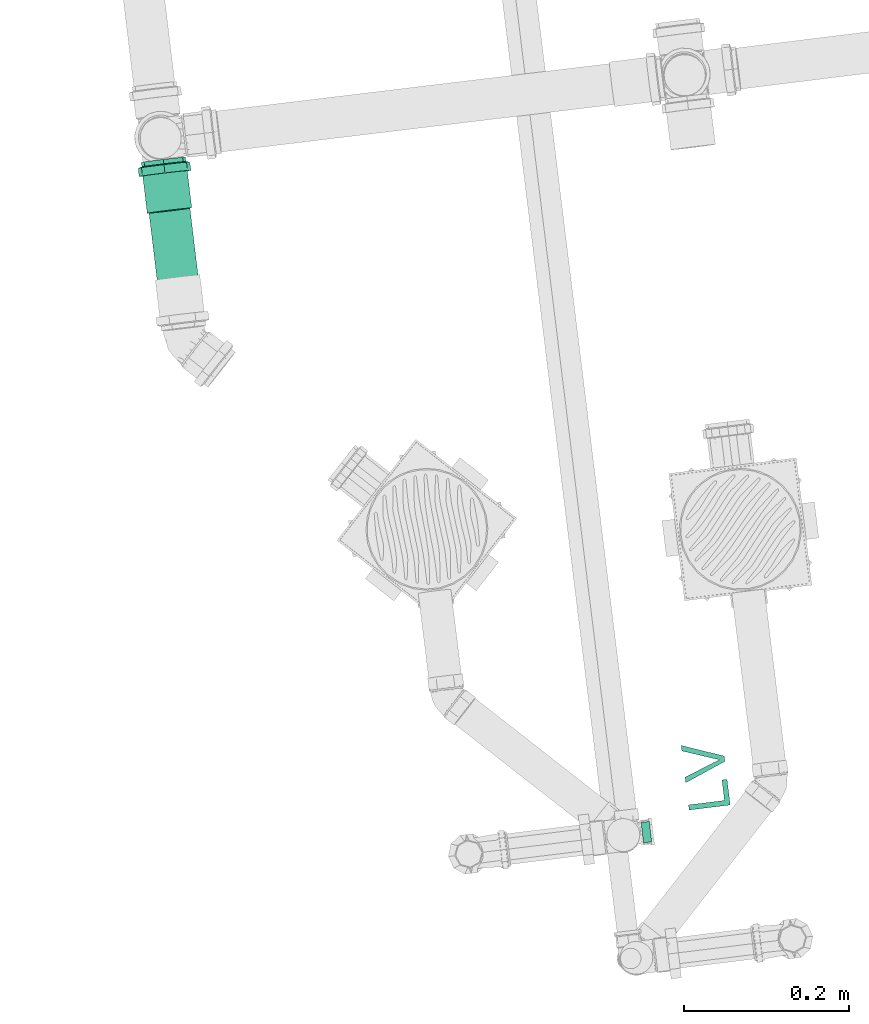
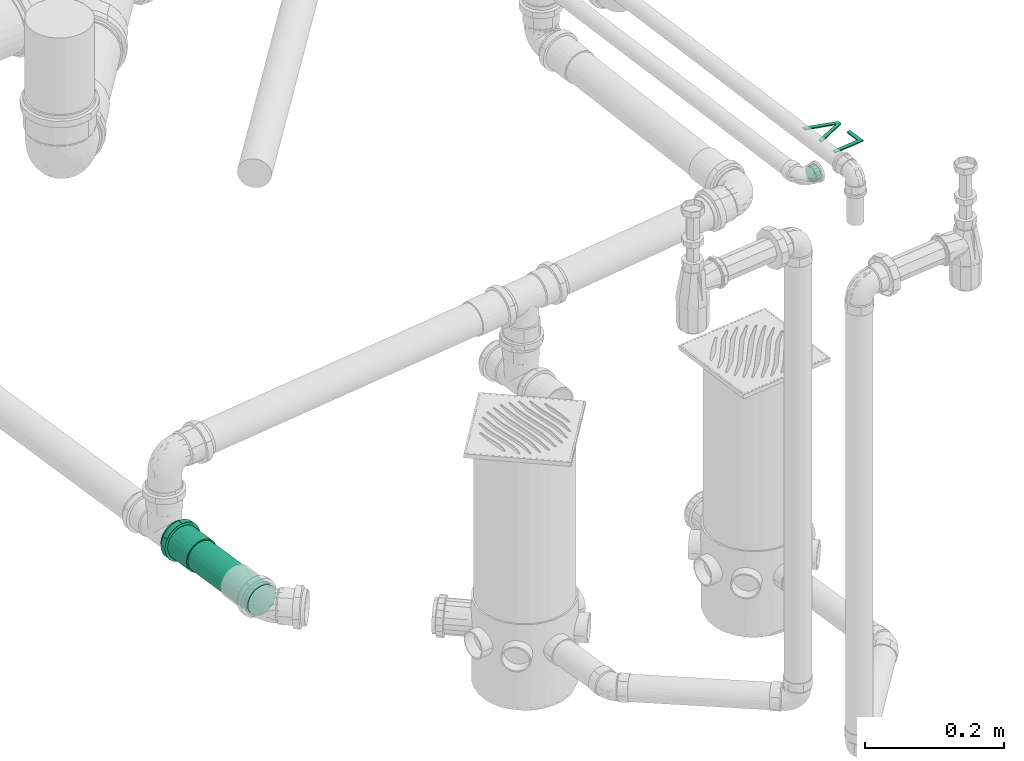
# One storey, part 13 of 97: 1 flow fitting, 1 flow segment, 1 flow terminal.
"""IFC2X3 building model written with IfcOpenShell, lengths in centimetres."""

from ifc_helpers import new_model, entity, si_unit, converted_unit, derived_unit, direction, frame, frame_2d, origin, place, context, subcontext, project, spatial, polyline, circle, outline, extrude, faceted_brep, source, transform, mapped, material, material_list, type_object, type_shapes, element, save


model = new_model("IFC2X3")

# Units and contexts
model_context = context("Model", 3, precision=0.001, world=origin(), true_north=direction((6.12303176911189e-17, 1.0)))
body_context = subcontext(model_context, "Body", "Model", "MODEL_VIEW")
ifc_project = project(units=[si_unit("LENGTHUNIT", "METRE", prefix="CENTI"), si_unit("AREAUNIT", "SQUARE_METRE"), si_unit("VOLUMEUNIT", "CUBIC_METRE"), converted_unit("PLANEANGLEUNIT", "DEGREE", entity("IfcRatioMeasure", 0.0174532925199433), si_unit("PLANEANGLEUNIT", "RADIAN"), dimensions=[0, 0, 0, 0, 0, 0, 0]), si_unit("MASSUNIT", "GRAM", prefix="KILO"), derived_unit("MASSDENSITYUNIT", [(si_unit("MASSUNIT", "GRAM", prefix="KILO"), 1), (si_unit("LENGTHUNIT", "METRE"), -3)]), derived_unit("MOMENTOFINERTIAUNIT", [(si_unit("LENGTHUNIT", "METRE"), 4)]), si_unit("TIMEUNIT", "SECOND"), si_unit("FREQUENCYUNIT", "HERTZ"), si_unit("THERMODYNAMICTEMPERATUREUNIT", "DEGREE_CELSIUS"), derived_unit("THERMALTRANSMITTANCEUNIT", [(si_unit("MASSUNIT", "GRAM", prefix="KILO"), 1), (si_unit("THERMODYNAMICTEMPERATUREUNIT", "KELVIN"), -1), (si_unit("TIMEUNIT", "SECOND"), -3)]), derived_unit("VOLUMETRICFLOWRATEUNIT", [(si_unit("LENGTHUNIT", "METRE"), 3), (si_unit("TIMEUNIT", "SECOND"), -1)]), si_unit("ELECTRICCURRENTUNIT", "AMPERE"), si_unit("ELECTRICVOLTAGEUNIT", "VOLT"), si_unit("POWERUNIT", "WATT"), si_unit("FORCEUNIT", "NEWTON", prefix="KILO"), si_unit("ILLUMINANCEUNIT", "LUX"), si_unit("LUMINOUSFLUXUNIT", "LUMEN"), si_unit("LUMINOUSINTENSITYUNIT", "CANDELA"), derived_unit("USERDEFINED", [(si_unit("MASSUNIT", "GRAM", prefix="KILO"), -1), (si_unit("LENGTHUNIT", "METRE"), -2), (si_unit("TIMEUNIT", "SECOND"), 3), (si_unit("LUMINOUSFLUXUNIT", "LUMEN"), 1)]), derived_unit("LINEARVELOCITYUNIT", [(si_unit("LENGTHUNIT", "METRE"), 1), (si_unit("TIMEUNIT", "SECOND"), -1)]), si_unit("PRESSUREUNIT", "PASCAL"), derived_unit("USERDEFINED", [(si_unit("LENGTHUNIT", "METRE"), -2), (si_unit("MASSUNIT", "GRAM", prefix="KILO"), 1), (si_unit("TIMEUNIT", "SECOND"), -2)]), derived_unit("LINEARFORCEUNIT", [(si_unit("MASSUNIT", "GRAM", prefix="KILO"), 1), (si_unit("LENGTHUNIT", "METRE"), 1), (si_unit("TIMEUNIT", "SECOND"), -2), (si_unit("LENGTHUNIT", "METRE"), -1)]), derived_unit("PLANARFORCEUNIT", [(si_unit("MASSUNIT", "GRAM", prefix="KILO"), 1), (si_unit("LENGTHUNIT", "METRE"), 1), (si_unit("TIMEUNIT", "SECOND"), -2), (si_unit("LENGTHUNIT", "METRE"), -2)])], contexts=[model_context])

# Site, building, storey
site_placement = place(None, origin())
site = spatial("IfcSite", under=ifc_project, at=site_placement, Name="Default", CompositionType="ELEMENT")
building_placement = place(site_placement, origin())
building = spatial("IfcBuilding", under=site, at=building_placement, Name="HIDROSSANITÁRIO", CompositionType="ELEMENT")
storey_placement = place(building_placement, frame((0.0, 0.0, -260.0)))
storey = spatial("IfcBuildingStorey", under=building, at=storey_placement, Name="TÉRREO-HID", CompositionType="ELEMENT", Elevation=-260.0)

# Flow terminal
ifc_material_1 = material(Name=".ID PONTOS DE CONSUMO")
ifc_material_2 = material(Name="<Unnamed>")
ifc_material_list_1 = material_list([ifc_material_1, ifc_material_2])
ifc_material_list_2 = material_list([ifc_material_1, ifc_material_1, ifc_material_2])
distribution_element_type = type_object("IfcDistributionElementType", Name="Pontos de Consumo :LAVATÓRIO", material=ifc_material_list_2)
shared_shape_1 = source(origin(), body_context, "Body", "SweptSolid", [
    extrude(outline(polyline([(-1.25570387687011, -1.88355581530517), (1.88355581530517, -1.88355581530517), (1.88355581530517, -1.25570387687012), (-0.627851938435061, -1.25570387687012), (-0.627851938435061, 3.13925969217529), (-1.25570387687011, 3.13925969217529), (-1.25570387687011, -1.88355581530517)])), frame((-3.28228646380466, 9.11204229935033, 0.0), z_axis=(0.0, 0.0, 1.0), x_axis=(-1.0, 0.0, 0.0)), (0.0, 0.0, 1.0), 0.2),
    extrude(outline(polyline([(-0.291035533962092, -2.60978212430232), (0.357663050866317, -2.60978212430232), (2.27187569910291, 2.41303338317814), (1.59987792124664, 2.41303338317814), (0.258334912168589, -1.20569917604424), (-0.00899267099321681, -2.02117093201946), (-0.279999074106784, -1.20569917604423), (-1.61786326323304, 2.41303338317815), (-2.28986104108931, 2.41303338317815), (-0.291035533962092, -2.60978212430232)])), frame((-7.6470019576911, 8.3858159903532, 0.0), z_axis=(0.0, 0.0, 1.0), x_axis=(-1.0, 0.0, 0.0)), (0.0, 0.0, 1.0), 0.2),
    extrude(circle(Radius=1.25, at=frame_2d((-6.58881963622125e-17, -2.01943071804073e-15), x_axis=(1.0, 0.0))), frame((0.0, 0.0, 0.0), z_axis=(0.0, 1.0, 0.0), x_axis=(1.0, 0.0, 0.0)), (0.0, 0.0, 1.0), 1.0),
])
type_shapes(distribution_element_type, [shared_shape_1])
flow_terminal_placement = place(storey_placement, frame((-1667.90574904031, 2755.81920452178, 60.0), z_axis=(0.0, 0.0, 1.0), x_axis=(0.122152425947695, -0.992511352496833, 0.0)))
element("IfcFlowTerminal", 1, at=flow_terminal_placement, inside=storey, type_object=distribution_element_type, material=ifc_material_list_1, Name="Pontos de Consumo :LAVATÓRIO", ObjectType="Pontos de Consumo :LAVATÓRIO", context=body_context, shape_type="MappedRepresentation", body=[
    mapped(shared_shape_1, transform((0.0, 0.0, 0.0), scale=1.0)),
])

# Flow segment
pipe_segment_type = type_object("IfcPipeSegmentType", Name="Tipos de tubos:Tubo - Esgoto - Série Normal", PredefinedType="NOTDEFINED")
flow_segment_placement = place(storey_placement, origin())
element("IfcFlowSegment", 2, at=flow_segment_placement, inside=storey, type_object=pipe_segment_type, Name="Tipos de tubos:Tubo - Esgoto - Série Normal", ObjectType="Tipos de tubos:Tubo - Esgoto - Série Normal", context=body_context, shape_type="SweptSolid", body=[
    extrude(circle(Radius=2.5, at=frame_2d((0.0, -5.41325309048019e-14), x_axis=(1.0, 0.0))), frame((-1723.53875321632, 2817.01289842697, -32.2237768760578), z_axis=(-0.119684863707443, 0.992610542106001, -0.0199961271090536), x_axis=(0.99280904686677, 0.119708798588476, 0.0)), (0.0, 0.0, 1.0), 20.4374495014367),
])

# Flow fitting
ifc_material_3 = material(Name="PVC Branco")
pipe_fitting_type = type_object("IfcPipeFittingType", Name="Luva Simples para Conexão - Serie Normal - Esgoto - MEP - Tigre:Standard", PredefinedType="NOTDEFINED", material=ifc_material_3)
shared_shape_2 = source(origin(), body_context, "Body", "Brep", [
    faceted_brep([(1.65999999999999, 1.59, -2.75396078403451), (1.65999999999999, 2.24859956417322, -2.24859956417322), (1.65999999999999, 1.35999999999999, -2.35558909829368), (1.65999999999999, 0.703987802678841, -2.62731824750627), (1.65999999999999, 0.82304456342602, -3.07164412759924), (1.65999999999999, 1.9233304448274, -1.92333044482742), (1.65999999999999, 2.75396078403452, -1.59), (1.65999999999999, 2.35558909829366, -1.36000000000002), (1.65999999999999, 2.62731824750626, -0.703987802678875), (1.65999999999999, 3.07164412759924, -0.823044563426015), (1.65999999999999, 2.72, 0.0), (1.65999999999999, 3.18, 0.0), (1.65999999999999, 2.62731824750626, 0.703987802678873), (1.65999999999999, 3.07164412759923, 0.823044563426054), (1.65999999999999, 2.35558909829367, 1.36000000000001), (1.65999999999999, 2.7539607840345, 1.59000000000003), (1.65999999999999, 1.9233304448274, 1.92333044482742), (1.65999999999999, 2.24859956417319, 2.24859956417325), (1.65999999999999, 1.35999999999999, 2.35558909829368), (1.65999999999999, 1.58999999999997, 2.75396078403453), (1.65999999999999, 0.703987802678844, 2.62731824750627), (1.65999999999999, 0.823044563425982, 3.07164412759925), (1.65999999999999, 0.0, 2.72), (1.65999999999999, 0.0, 3.18), (1.65999999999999, -0.703987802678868, 2.62731824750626), (1.65999999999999, -0.823044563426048, 3.07164412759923), (1.65999999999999, -1.36000000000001, 2.35558909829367), (1.65999999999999, -1.59000000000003, 2.7539607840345), (1.65999999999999, -1.92333044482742, 1.9233304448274), (1.65999999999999, -2.24859956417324, 2.2485995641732), (1.65999999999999, -2.35558909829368, 1.35999999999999), (1.65999999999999, -2.75396078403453, 1.58999999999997), (1.65999999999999, -3.07164412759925, 0.823044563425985), (1.65999999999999, -2.62731824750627, 0.703987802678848), (1.65999999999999, -3.18, 0.0), (1.65999999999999, -2.72, 0.0), (1.65999999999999, -3.07164412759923, -0.823044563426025), (1.65999999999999, -2.62731824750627, -0.703987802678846), (1.65999999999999, -2.75396078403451, -1.59000000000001), (1.65999999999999, -2.35558909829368, -1.35999999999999), (1.65999999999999, -2.24859956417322, -2.24859956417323), (1.65999999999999, -1.92333044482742, -1.9233304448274), (1.65999999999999, -1.58999999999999, -2.75396078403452), (1.65999999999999, -1.36000000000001, -2.35558909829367), (1.65999999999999, -0.823044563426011, -3.07164412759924), (1.65999999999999, -0.70398780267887, -2.62731824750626), (1.65999999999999, 0.0, -3.18), (1.65999999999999, 0.0, -2.72), (0.650000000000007, -1.07081089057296, 2.94292196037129), (0.650000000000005, -2.43590738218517, 2.04420038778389), (0.650000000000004, -2.7120498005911, 1.56595386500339), (0.650000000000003, -2.98819221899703, 1.08770734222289), (0.650000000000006, -1.58976972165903, 2.75409372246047), (0.650000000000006, -2.0128385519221, 2.39914705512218), (0.650000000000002, -3.08409610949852, 0.54385367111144), (0.650000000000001, -3.18, 0.0), (0.650000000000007, -0.551852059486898, 3.13175019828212), (0.650000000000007, 0.552637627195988, 3.13161167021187), (0.650000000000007, 0.000392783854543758, 3.13168093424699), (0.650000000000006, 2.01344030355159, 2.39864206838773), (0.650000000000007, 1.07154907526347, 2.94265325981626), (0.650000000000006, 1.59046052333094, 2.75369484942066), (0.650000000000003, 2.98846497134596, 1.08695773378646), (0.650000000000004, 2.7124425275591, 1.56527351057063), (0.650000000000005, 2.43642008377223, 2.0435892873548), (0.650000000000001, 3.18, 0.0), (0.649999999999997, 2.43642008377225, -2.04358928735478), (0.649999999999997, 2.71244252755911, -1.5652735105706), (0.649999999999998, 2.98846497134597, -1.08695773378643), (0.649999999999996, 1.59046052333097, -2.75369484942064), (0.649999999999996, 2.01344030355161, -2.39864206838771), (0.649999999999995, 1.07154907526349, -2.94265325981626), (0.649999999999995, 0.552637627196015, -3.13161167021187), (0.649999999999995, -0.551852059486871, -3.13175019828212), (0.649999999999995, 0.000392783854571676, -3.13168093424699), (0.649999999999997, -2.01283855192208, -2.3991470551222), (0.649999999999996, -1.58976972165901, -2.75409372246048), (0.649999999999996, -1.07081089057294, -2.9429219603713), (0.649999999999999, -2.98819221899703, -1.08770734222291), (0.649999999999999, -2.71204980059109, -1.56595386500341), (0.649999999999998, -2.43590738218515, -2.04420038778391), (0.65, -3.08409610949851, -0.543853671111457), (0.64999999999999, -3.06961738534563, -0.625959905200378), (6.20000000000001, 1.36, -2.35558909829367), (6.20000000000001, 1.92333044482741, -1.92333044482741), (6.20000000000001, 1.24999999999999, -2.1650635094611), (6.20000000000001, 0.647047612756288, -2.41481456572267), (6.20000000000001, 0.70398780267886, -2.62731824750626), (6.20000000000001, 1.76776695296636, -1.76776695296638), (6.20000000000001, 2.35558909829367, -1.36), (6.20000000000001, 2.16506350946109, -1.25000000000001), (6.20000000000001, 2.41481456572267, -0.647047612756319), (6.20000000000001, 2.62731824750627, -0.703987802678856), (6.20000000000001, 2.5, 0.0), (6.20000000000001, 2.72, 0.0), (6.20000000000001, 2.41481456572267, 0.647047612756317), (6.20000000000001, 2.62731824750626, 0.703987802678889), (6.20000000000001, 2.16506350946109, 1.25000000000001), (6.20000000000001, 2.35558909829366, 1.36000000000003), (6.20000000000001, 1.76776695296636, 1.76776695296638), (6.20000000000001, 1.92333044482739, 1.92333044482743), (6.20000000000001, 1.24999999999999, 2.1650635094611), (6.20000000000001, 1.35999999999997, 2.35558909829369), (6.20000000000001, 0.64704761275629, 2.41481456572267), (6.20000000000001, 0.703987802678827, 2.62731824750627), (6.20000000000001, 0.0, 2.5), (6.20000000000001, 0.0, 2.72), (6.20000000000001, -0.647047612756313, 2.41481456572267), (6.20000000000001, -0.703987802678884, 2.62731824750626), (6.20000000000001, -1.25000000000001, 2.16506350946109), (6.20000000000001, -1.36000000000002, 2.35558909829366), (6.20000000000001, -1.76776695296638, 1.76776695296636), (6.20000000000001, -1.92333044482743, 1.92333044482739), (6.20000000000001, -2.1650635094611, 1.24999999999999), (6.20000000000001, -2.35558909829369, 1.35999999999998), (6.20000000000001, -2.62731824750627, 0.703987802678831), (6.20000000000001, -2.41481456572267, 0.647047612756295), (6.20000000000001, -2.72, 0.0), (6.20000000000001, -2.5, 0.0), (6.20000000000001, -2.62731824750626, -0.703987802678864), (6.20000000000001, -2.41481456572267, -0.647047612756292), (6.20000000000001, -2.35558909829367, -1.36000000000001), (6.20000000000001, -2.1650635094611, -1.24999999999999), (6.20000000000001, -1.9233304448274, -1.92333044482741), (6.20000000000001, -1.76776695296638, -1.76776695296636), (6.20000000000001, -1.36, -2.35558909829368), (6.20000000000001, -1.25000000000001, -2.16506350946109), (6.20000000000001, -0.703987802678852, -2.62731824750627), (6.20000000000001, -0.647047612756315, -2.41481456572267), (6.20000000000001, 0.0, -2.72), (6.20000000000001, 0.0, -2.5), (0.0, 1.24999999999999, -2.1650635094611), (0.0, 1.92333044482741, -1.92333044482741), (0.0, 1.36, -2.35558909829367), (0.0, 0.647047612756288, -2.41481456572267), (0.0, 1.76776695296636, -1.76776695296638), (0.0, 2.35558909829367, -1.36), (0.0, 2.16506350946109, -1.25000000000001), (0.0, 2.41481456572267, -0.647047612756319), (0.0, 2.62731824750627, -0.703987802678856), (0.0, 2.5, 0.0), (0.0, 2.72, 0.0), (0.0, 2.41481456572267, 0.647047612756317), (0.0, 2.62731824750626, 0.703987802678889), (0.0, 2.16506350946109, 1.25000000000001), (0.0, 2.35558909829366, 1.36000000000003), (0.0, 1.76776695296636, 1.76776695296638), (0.0, 1.92333044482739, 1.92333044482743), (0.0, 1.24999999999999, 2.1650635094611), (0.0, 1.35999999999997, 2.35558909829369), (0.0, 0.64704761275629, 2.41481456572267), (0.0, 0.703987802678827, 2.62731824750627), (0.0, 0.0, 2.5), (0.0, 0.0, 2.72), (0.0, -0.647047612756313, 2.41481456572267), (0.0, -0.703987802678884, 2.62731824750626), (0.0, -1.25000000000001, 2.16506350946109), (0.0, -1.36000000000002, 2.35558909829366), (0.0, -1.76776695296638, 1.76776695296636), (0.0, -1.92333044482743, 1.92333044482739), (0.0, -2.1650635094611, 1.24999999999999), (0.0, -2.35558909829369, 1.35999999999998), (0.0, -2.62731824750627, 0.703987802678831), (0.0, -2.41481456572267, 0.647047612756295), (0.0, -2.72, 0.0), (0.0, -2.5, 0.0), (0.0, -2.62731824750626, -0.703987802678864), (0.0, -2.41481456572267, -0.647047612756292), (0.0, -2.35558909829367, -1.36000000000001), (0.0, -2.1650635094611, -1.24999999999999), (0.0, -1.9233304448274, -1.92333044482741), (0.0, -1.76776695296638, -1.76776695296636), (0.0, -1.36, -2.35558909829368), (0.0, -1.25000000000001, -2.16506350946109), (0.0, -0.703987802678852, -2.62731824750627), (0.0, -0.647047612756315, -2.41481456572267), (0.0, 0.0, -2.72), (0.0, 0.0, -2.5), (0.0, 0.70398780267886, -2.62731824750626), (0.53, -2.63796899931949, 0.465183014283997), (0.529999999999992, -2.62558467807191, 0.535412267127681), (0.530000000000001, -2.55593799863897, 0.930366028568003), (0.530000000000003, -2.08354342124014, 1.74849844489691), (0.530000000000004, -1.72167322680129, 2.05210062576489), (0.530000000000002, -2.31974070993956, 1.33943223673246), (0.530000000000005, -0.472024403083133, 2.67872972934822), (0.530000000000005, -0.915913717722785, 2.51721626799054), (0.53, -2.72, 0.0), (0.530000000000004, -1.35980303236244, 2.35570280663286), (0.530000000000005, 0.916545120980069, 2.51698643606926), (0.530000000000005, 1.36039390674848, 2.35536163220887), (0.530000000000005, 0.47269633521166, 2.67861123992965), (0.530000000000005, 1.72218793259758, 2.05166868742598), (0.530000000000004, 2.08398195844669, 1.7479757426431), (0.530000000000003, 2.5561712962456, 0.929724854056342), (0.53, 2.72, 0.0), (0.530000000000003, 2.32007662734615, 1.33885029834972), (0.530000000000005, 0.000335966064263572, 2.67867048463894), (0.529999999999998, 2.55617129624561, -0.929724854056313), (0.529999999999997, 2.08398195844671, -1.74797574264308), (0.529999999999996, 1.7221879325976, -2.05166868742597), (0.529999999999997, 2.32007662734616, -1.3388502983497), (0.529999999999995, 0.472696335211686, -2.67861123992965), (0.529999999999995, 0.916545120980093, -2.51698643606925), (0.529999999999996, 1.3603939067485, -2.35536163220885), (0.529999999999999, -2.63796899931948, -0.465183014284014), (0.529999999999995, -0.915913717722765, -2.51721626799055), (0.529999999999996, -1.35980303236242, -2.35570280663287), (0.529999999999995, -0.47202440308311, -2.67872972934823), (0.529999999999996, -1.72167322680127, -2.0521006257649), (0.529999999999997, -2.08354342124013, -1.74849844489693), (0.529999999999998, -2.55593799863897, -0.930366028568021), (0.529999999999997, -2.31974070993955, -1.33943223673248), (0.529999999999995, 0.000335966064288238, -2.67867048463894), (3.9, -2.5, 0.0), (3.9, 2.5, 0.0)], [[[0, 1, 2]], [[0, 2, 3]], [[3, 4, 0]], [[2, 1, 5]], [[6, 5, 1]], [[7, 5, 6]], [[8, 7, 6]], [[8, 6, 9]], [[8, 9, 10]], [[10, 9, 11]], [[12, 10, 11]], [[12, 11, 13]], [[14, 12, 13]], [[14, 13, 15]], [[16, 14, 15]], [[15, 17, 16]], [[17, 18, 16]], [[17, 19, 18]], [[18, 19, 20]], [[21, 20, 19]], [[20, 21, 22]], [[22, 21, 23]], [[22, 23, 24]], [[24, 23, 25]], [[24, 25, 26]], [[27, 26, 25]], [[27, 28, 26]], [[28, 27, 29]], [[30, 28, 29]], [[31, 30, 29]], [[32, 30, 31]], [[33, 30, 32]], [[33, 32, 34]], [[35, 33, 34]], [[36, 35, 34]], [[36, 37, 35]], [[37, 36, 38]], [[39, 37, 38]], [[39, 38, 40]], [[39, 40, 41]], [[40, 42, 41]], [[41, 42, 43]], [[43, 42, 44]], [[44, 45, 43]], [[46, 45, 44]], [[4, 47, 46]], [[46, 47, 45]], [[4, 3, 47]], [[48, 27, 25]], [[31, 29, 49]], [[31, 49, 50, 51]], [[52, 53, 27]], [[32, 51, 54]], [[54, 55, 34]], [[54, 34, 32]], [[25, 56, 48]], [[49, 29, 53]], [[23, 57, 58, 56]], [[59, 19, 17]], [[27, 53, 29]], [[48, 52, 27]], [[31, 51, 32]], [[57, 23, 21]], [[60, 19, 61]], [[15, 62, 63, 64]], [[19, 60, 21]], [[15, 13, 62]], [[17, 64, 59]], [[57, 21, 60]], [[23, 56, 25]], [[15, 64, 17]], [[13, 65, 62]], [[13, 11, 65]], [[59, 61, 19]], [[65, 11, 9]], [[6, 1, 66]], [[6, 66, 67, 68]], [[69, 70, 0]], [[68, 65, 9]], [[71, 69, 0]], [[71, 0, 4]], [[4, 72, 71]], [[66, 1, 70]], [[46, 73, 74, 72]], [[75, 76, 42]], [[0, 70, 1]], [[75, 42, 40]], [[6, 68, 9]], [[73, 46, 44]], [[77, 42, 76]], [[38, 78, 79, 80]], [[42, 77, 44]], [[38, 36, 78]], [[40, 80, 75]], [[73, 44, 77]], [[46, 72, 4]], [[38, 80, 40]], [[36, 81, 82, 78]], [[55, 81, 34]], [[34, 81, 36]], [[83, 84, 85]], [[83, 85, 86]], [[86, 87, 83]], [[85, 84, 88]], [[89, 88, 84]], [[88, 89, 90]], [[90, 89, 91]], [[92, 91, 89]], [[92, 93, 91]], [[93, 92, 94]], [[95, 93, 94]], [[94, 96, 95]], [[95, 96, 97]], [[98, 97, 96]], [[97, 98, 99]], [[99, 98, 100]], [[101, 99, 100]], [[100, 102, 101]], [[101, 102, 103]], [[104, 103, 102]], [[103, 104, 105]], [[105, 104, 106]], [[105, 106, 107]], [[107, 106, 108]], [[107, 108, 109]], [[110, 109, 108]], [[110, 111, 109]], [[111, 110, 112]], [[112, 113, 111]], [[114, 113, 112]], [[113, 114, 115]], [[115, 116, 113]], [[117, 116, 115]], [[117, 118, 116]], [[119, 118, 117]], [[119, 120, 118]], [[120, 119, 121]], [[121, 122, 120]], [[122, 121, 123]], [[122, 123, 124]], [[123, 125, 124]], [[124, 125, 126]], [[126, 125, 127]], [[127, 128, 126]], [[129, 128, 127]], [[87, 130, 129]], [[129, 130, 128]], [[87, 86, 130]], [[131, 132, 133]], [[134, 131, 133]], [[135, 132, 131]], [[132, 135, 136]], [[137, 136, 135]], [[138, 136, 137]], [[136, 138, 139]], [[138, 140, 139]], [[141, 139, 140]], [[141, 140, 142]], [[142, 143, 141]], [[144, 143, 142]], [[143, 144, 145]], [[146, 145, 144]], [[147, 145, 146]], [[147, 146, 148]], [[148, 149, 147]], [[150, 149, 148]], [[149, 150, 151]], [[152, 151, 150]], [[153, 151, 152]], [[154, 153, 152]], [[155, 153, 154]], [[156, 155, 154]], [[155, 156, 157]], [[156, 158, 157]], [[159, 157, 158]], [[158, 160, 159]], [[159, 160, 161]], [[162, 161, 160]], [[160, 163, 162]], [[162, 163, 164]], [[163, 165, 164]], [[164, 165, 166]], [[165, 167, 166]], [[168, 166, 167]], [[167, 169, 168]], [[170, 168, 169]], [[171, 170, 169]], [[171, 172, 170]], [[173, 172, 171]], [[174, 172, 173]], [[173, 175, 174]], [[174, 175, 176]], [[175, 177, 176]], [[177, 134, 178]], [[176, 177, 178]], [[133, 178, 134]], [[162, 179, 180, 181]], [[159, 182, 183]], [[182, 161, 181, 184]], [[185, 155, 186]], [[161, 162, 181]], [[187, 179, 164]], [[183, 188, 157]], [[183, 157, 159]], [[161, 182, 159]], [[189, 190, 149]], [[189, 149, 151]], [[157, 188, 186]], [[157, 186, 155]], [[153, 155, 185]], [[164, 179, 162]], [[151, 191, 189]], [[147, 192, 193]], [[143, 194, 195]], [[194, 145, 193, 196]], [[143, 195, 141]], [[10, 12, 96, 94]], [[149, 192, 147]], [[153, 185, 197, 191]], [[153, 191, 151]], [[145, 147, 193]], [[190, 192, 149]], [[145, 194, 143]], [[139, 195, 198]], [[132, 199, 200]], [[199, 136, 198, 201]], [[202, 178, 203]], [[136, 139, 198]], [[139, 141, 195]], [[92, 8, 10, 94]], [[133, 203, 178]], [[200, 204, 133]], [[136, 199, 132]], [[205, 164, 166]], [[206, 207, 172]], [[133, 204, 203]], [[206, 172, 174]], [[176, 178, 202]], [[200, 133, 132]], [[174, 208, 206]], [[170, 209, 210]], [[166, 211, 205]], [[211, 168, 210, 212]], [[168, 211, 166]], [[172, 209, 170]], [[176, 202, 213, 208]], [[176, 208, 174]], [[168, 170, 210]], [[207, 209, 172]], [[205, 187, 164]], [[116, 118, 214, 165, 163]], [[156, 109, 111, 158]], [[111, 113, 160, 158]], [[113, 116, 163, 160]], [[107, 109, 156, 154]], [[154, 152, 105, 107]], [[103, 105, 152, 150]], [[103, 150, 148, 101]], [[142, 95, 97, 144]], [[97, 99, 146, 144]], [[99, 101, 148, 146]], [[93, 95, 142, 140, 215]], [[215, 140, 138, 91, 93]], [[135, 131, 85, 88]], [[90, 91, 138, 137]], [[90, 137, 135, 88]], [[86, 85, 131, 134]], [[134, 177, 130, 86]], [[128, 130, 177, 175]], [[128, 175, 173, 126]], [[167, 120, 122, 169]], [[122, 124, 171, 169]], [[124, 126, 173, 171]], [[118, 120, 167, 165, 214]], [[211, 78, 82, 81, 55, 187, 205]], [[79, 78, 211, 212, 210, 80]], [[75, 80, 210, 209, 207, 76]], [[207, 206, 208, 73, 77, 76]], [[213, 202, 72, 74, 73, 208]], [[203, 204, 69, 71, 72, 202]], [[198, 195, 65, 68]], [[199, 201, 198, 68, 67, 66]], [[204, 200, 199, 66, 70, 69]], [[195, 194, 62, 65]], [[197, 185, 56, 58, 57, 191]], [[63, 62, 194, 196, 193, 64]], [[57, 60, 61, 190, 189, 191]], [[193, 192, 190, 61, 59, 64]], [[48, 56, 185, 186, 188, 52]], [[187, 55, 54, 51, 181, 180, 179]], [[182, 184, 181, 51, 50, 49]], [[188, 183, 182, 49, 53, 52]], [[30, 33, 115, 114]], [[117, 115, 33, 35]], [[26, 28, 112, 110]], [[114, 112, 28, 30]], [[24, 26, 110, 108]], [[108, 106, 22, 24]], [[18, 20, 104, 102]], [[100, 16, 18, 102]], [[12, 14, 98, 96]], [[100, 98, 14, 16]], [[104, 20, 22, 106]], [[89, 7, 8, 92]], [[83, 87, 3, 2]], [[7, 89, 84, 5]], [[83, 2, 5, 84]], [[87, 129, 47, 3]], [[43, 45, 127, 125]], [[123, 41, 43, 125]], [[37, 39, 121, 119]], [[123, 121, 39, 41]], [[35, 37, 119, 117]], [[127, 45, 47, 129]]]),
])
type_shapes(pipe_fitting_type, [shared_shape_2])
flow_fitting_placement = place(storey_placement, frame((-1726.00036560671, 2837.42836562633, -32.6350462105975), z_axis=(0.992809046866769, 0.119708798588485, 0.0), x_axis=(0.119684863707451, -0.992610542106, 0.0199961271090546)))
element("IfcFlowFitting", 3, at=flow_fitting_placement, inside=storey, type_object=pipe_fitting_type, material=ifc_material_3, Name="Luva Simples para Conexão - Serie Normal - Esgoto - MEP - Tigre:Standard", ObjectType="Luva Simples para Conexão - Serie Normal - Esgoto - MEP - Tigre:Standard", context=body_context, shape_type="MappedRepresentation", body=[
    mapped(shared_shape_2, transform((0.0, 0.0, 0.0), scale=1.0)),
])

save(model, "model.ifc")
